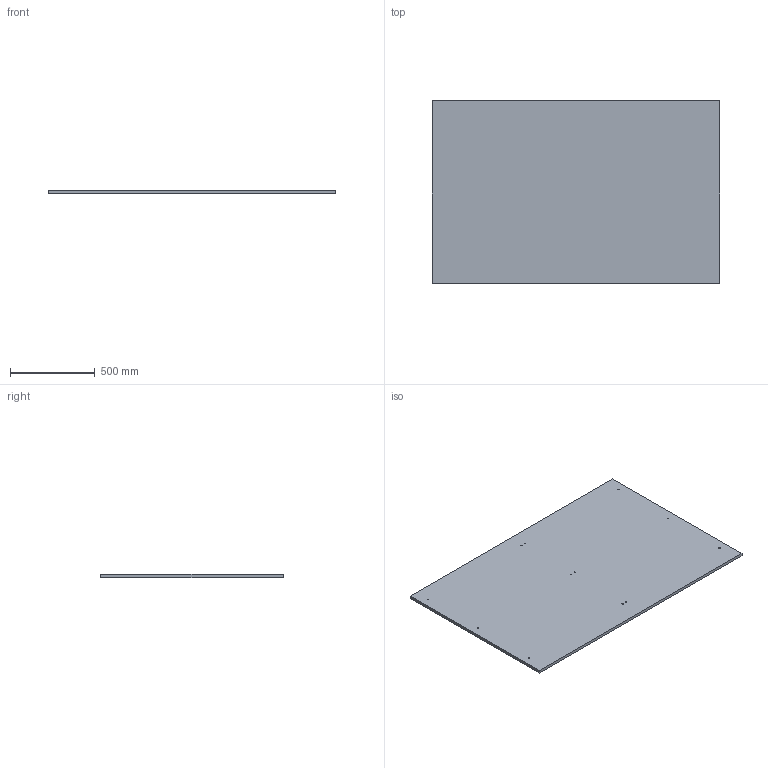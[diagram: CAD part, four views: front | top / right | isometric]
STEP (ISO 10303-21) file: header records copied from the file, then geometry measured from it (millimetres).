
FILE_DESCRIPTION (( 'STEP AP214' ), '1' );
FILE_NAME ('PANTI0120.STEP', '2025-01-23T13:06:24', ( '' ), ( '' ), 'SwSTEP 2.0', 'SolidWorks 2022', '' );
FILE_SCHEMA (( 'AUTOMOTIVE_DESIGN' ));
Length unit declared in the file: millimetre
Products named in the file (1): PANTI0120
Bounding box: 1696 x 1078 x 18 mm (x, y, z)
Volume: 32898949.3 mm3; surface area: 3760773.5 mm2
Topology: 1 solids, 1 shells, 78 faces, 180 edges, 92 vertices
Faces by surface type: cone 48, cylinder 24, plane 6
Entity records: 2038 total; most frequent: DIRECTION 386, CARTESIAN_POINT 327, ORIENTED_EDGE 312, EDGE_CURVE 156, AXIS2_PLACEMENT_3D 151, VERTEX_POINT 92, EDGE_LOOP 90, LINE 84
